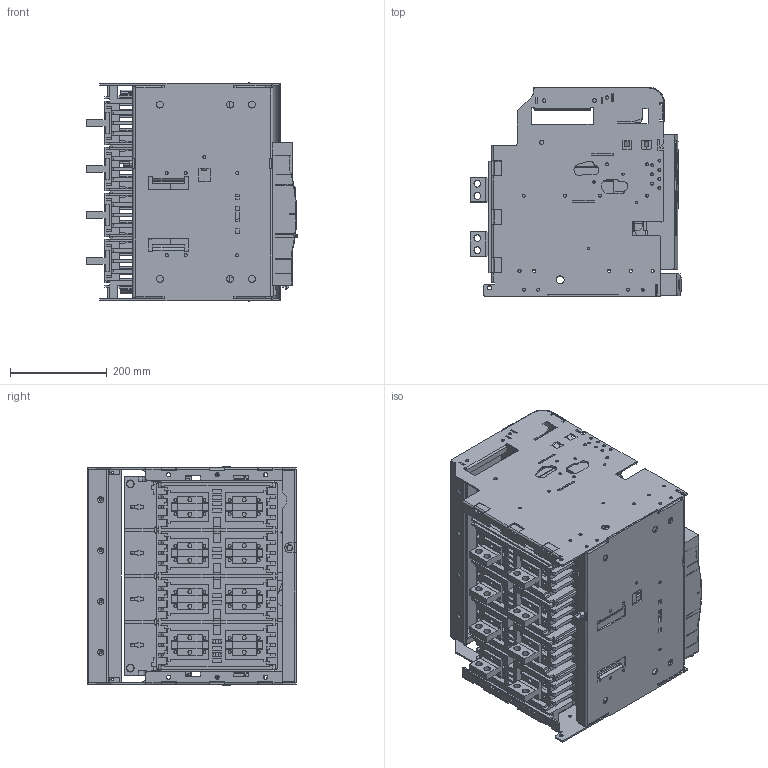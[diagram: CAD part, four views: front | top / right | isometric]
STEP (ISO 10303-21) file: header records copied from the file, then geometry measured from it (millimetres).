
FILE_DESCRIPTION(('CAx-IF Rec.Pracs.---Model Styling and Organization---1.2---2011-12-15','CAx-IF Rec.Pracs.---Geometric and Assembly Validation Properties---4.1---2014-06-16','CAx-IF Rec.Pracs.---PMI Polyline Presentation---2.0---2013-05-24'),'2;1');
FILE_NAME('YON AD-2000-S2-D 4P.stp','2021-07-13T11:18:04+03:00',(''),(''),'STEP Interface 4.4 by CT CoreTechnologie','3D_Evolution4.4 by CT CoreTechnologie','');
FILE_SCHEMA(('AUTOMOTIVE_DESIGN { 1 0 10303 214 1 1 1 1 }'));
Length unit declared in the file: millimetre
Products named in the file (1): YON AD-2000-S2-D 4P
Bounding box: 437.6 x 431.5 x 451.6 mm (x, y, z)
Surface area: 4054372 mm2 (no closed solid volume)
Topology: 0 solids, 41 shells, 4753 faces, 13834 edges, 9132 vertices
Faces by surface type: plane 3351, cylinder 1197, bspline 205
Entity records: 328170 total; most frequent: CARTESIAN_POINT 34052, ORIENTED_EDGE 27598, DIRECTION 25326, PROPERTY_DEFINITION 23325, EDGE_CURVE 13813, REPRESENTATION 11671, GENERAL_PROPERTY 11671, PROPERTY_DEFINITION_REPRESENTATION 11671
